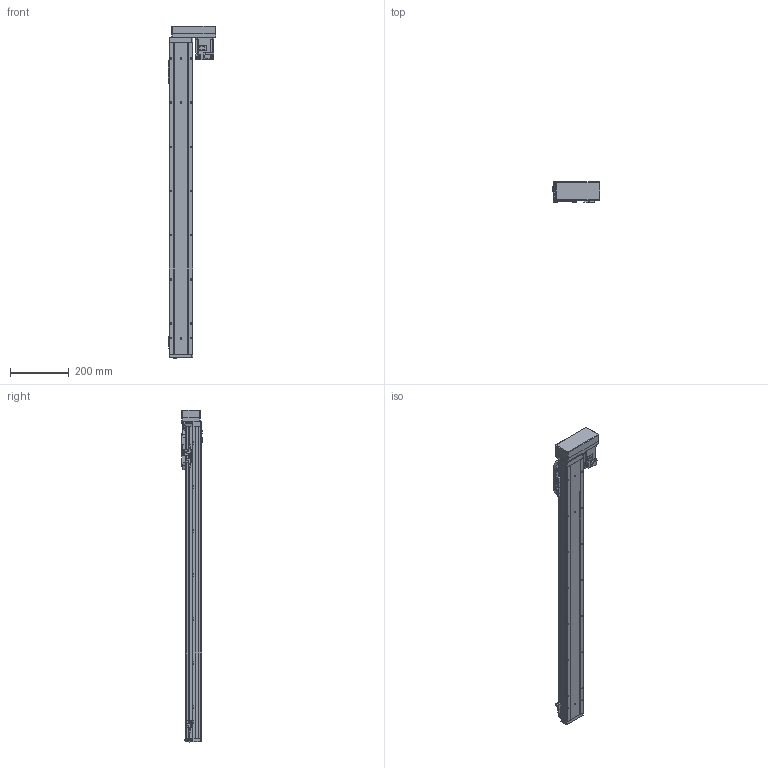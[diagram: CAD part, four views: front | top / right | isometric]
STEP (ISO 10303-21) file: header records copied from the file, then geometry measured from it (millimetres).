
FILE_DESCRIPTION (( 'STEP AP214' ), '1' );
FILE_NAME ('GSH8-900-BL-M20-1.step', '2025-01-07T06:07:11', ( '' ), ( '' ), 'SwSTEP 2.0', 'SolidWorks 2012', '' );
FILE_SCHEMA (( 'AUTOMOTIVE_DESIGN' ));
Length unit declared in the file: millimetre
Products named in the file (5): GSH8-GY-004; GSH8-BL-008; GSH8-BL-011-900-M20; HG-KR23_200W_Motor; GSH8-900-BL-M20-1
Assembly tree (4 placements, depth 2):
  GSH8-900-BL-M20-1
    GSH8-BL-011-900-M20
    GSH8-GY-004
    GSH8-BL-008
    HG-KR23_200W_Motor
Bounding box: 163 x 71.3 x 1128.2 mm (x, y, z)
Volume: 2531671.2 mm3; surface area: 660661.4 mm2
Topology: 4 solids, 8 shells, 1163 faces, 3062 edges, 1972 vertices
Faces by surface type: plane 654, cylinder 413, torus 42, cone 26, bspline 24, sphere 4
Entity records: 45996 total; most frequent: CARTESIAN_POINT 10798, DIRECTION 6218, ORIENTED_EDGE 6108, EDGE_CURVE 3054, AXIS2_PLACEMENT_3D 2096, VECTOR 2026, LINE 2026, VERTEX_POINT 1968
